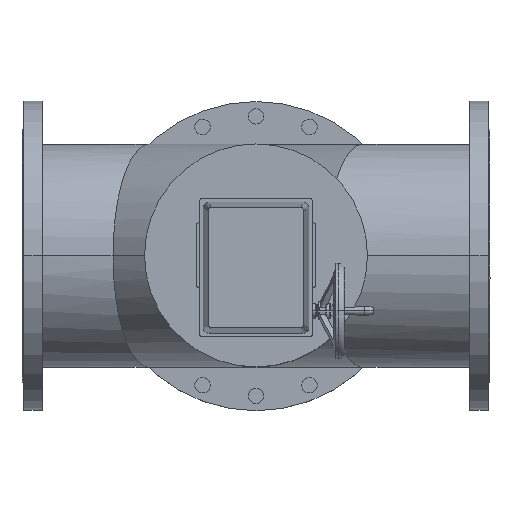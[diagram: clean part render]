
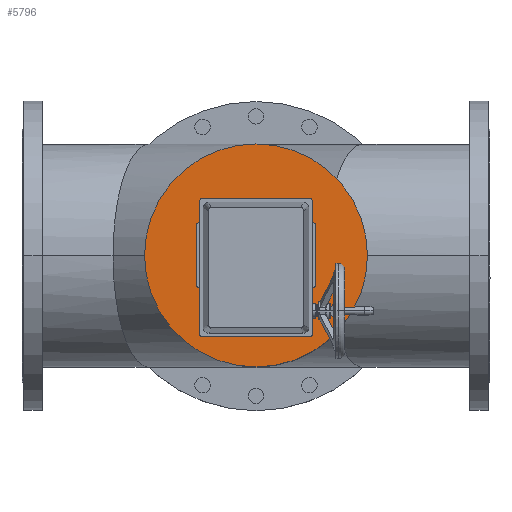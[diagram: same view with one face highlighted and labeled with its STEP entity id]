
A CAD part, top view. The second image highlights one B-rep face of the part: STEP entity #5796.
In plain terms, the highlighted planar face has unit normal (0, 0, 1).
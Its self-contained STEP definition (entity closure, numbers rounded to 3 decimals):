
#1258=FACE_OUTER_BOUND('',#1670,.T.);
#1670=EDGE_LOOP('',(#4183,#4184));
#2117=CIRCLE('',#6348,187.5);
#2118=CIRCLE('',#6349,187.5);
#2555=VERTEX_POINT('',#9241);
#2556=VERTEX_POINT('',#9242);
#3139=EDGE_CURVE('',#2555,#2556,#2117,.T.);
#3140=EDGE_CURVE('',#2556,#2555,#2118,.T.);
#4183=ORIENTED_EDGE('',*,*,#3139,.T.);
#4184=ORIENTED_EDGE('',*,*,#3140,.T.);
#5266=PLANE('',#6347);
#5796=ADVANCED_FACE('',(#1258),#5266,.T.);
#6347=AXIS2_PLACEMENT_3D('',#9240,#7462,#7463);
#6348=AXIS2_PLACEMENT_3D('',#9243,#7464,#7465);
#6349=AXIS2_PLACEMENT_3D('',#9244,#7466,#7467);
#7462=DIRECTION('center_axis',(0.,0.,1.));
#7463=DIRECTION('ref_axis',(0.,-1.,0.));
#7464=DIRECTION('center_axis',(0.,0.,1.));
#7465=DIRECTION('ref_axis',(-1.,0.,0.));
#7466=DIRECTION('center_axis',(0.,0.,1.));
#7467=DIRECTION('ref_axis',(-1.,0.,0.));
#9240=CARTESIAN_POINT('Origin',(-187.5,0.,373.));
#9241=CARTESIAN_POINT('',(187.5,0.,373.));
#9242=CARTESIAN_POINT('',(-187.5,0.,373.));
#9243=CARTESIAN_POINT('Origin',(0.,0.,373.));
#9244=CARTESIAN_POINT('Origin',(0.,0.,373.));
